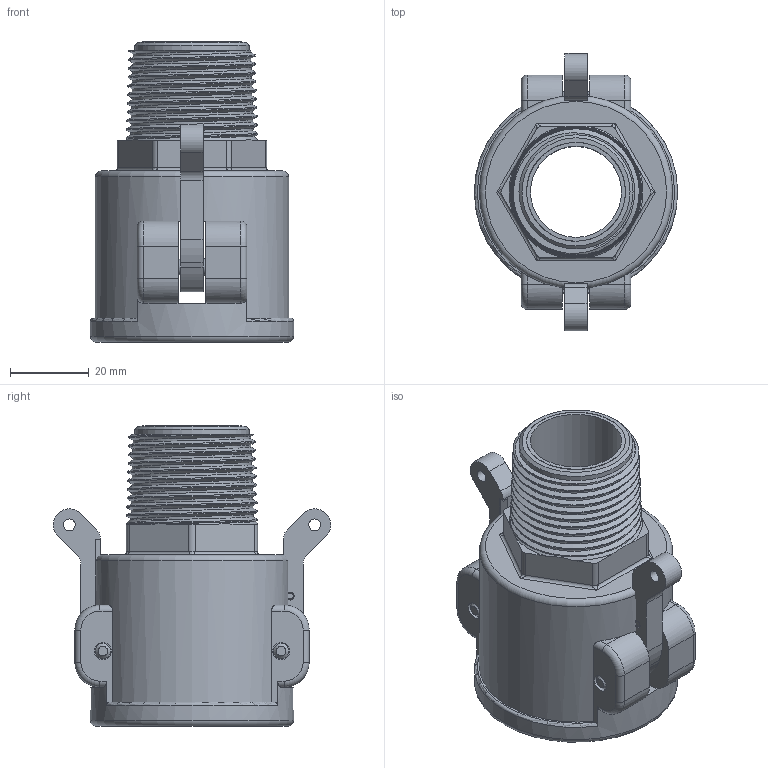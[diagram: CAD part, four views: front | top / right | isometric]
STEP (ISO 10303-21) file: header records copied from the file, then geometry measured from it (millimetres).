
FILE_DESCRIPTION(/* description */ ('Alibre Inc.'),/* implementation_level */ '2;1');
FILE_NAME(/* name */ 'export0',/* time_stamp */ '2016-02-22T11:42:31-05:00',/* author */ (''),/* organization */ (''),/* preprocessor_version */ 'ST-DEVELOPER v14',/* originating_system */ 'Alibre',/* authorisation */ '');
FILE_SCHEMA (('CONFIG_CONTROL_DESIGN'));
Length unit declared in the file: centimetre
Products named in the file (5): ID_2; ID_1; ID_3
Bounding box: 51.56 x 70.33 x 76.2 mm (x, y, z)
Volume: 60656.2 mm3; surface area: 29500.4 mm2
Topology: 6 solids, 6 shells, 223 faces, 569 edges, 359 vertices
Faces by surface type: plane 95, cylinder 66, cone 35, bspline 14, torus 13
Full cylindrical faces by diameter (mm): 3.048 x2, 3.962 x2, 4.216 x2, 4.242 x2, 4.318 x4, 23.114 x1, 26.924 x1, 28.956 x1, 38.1 x1, 39.624 x1, 40.386 x1, 49.022 x1, 51.562 x1
Entity records: 20560 total; most frequent: CARTESIAN_POINT 15905, ORIENTED_EDGE 942, DIRECTION 689, EDGE_CURVE 471, VERTEX_POINT 311, AXIS2_PLACEMENT_3D 289, EDGE_LOOP 242, FACE_BOUND 242
